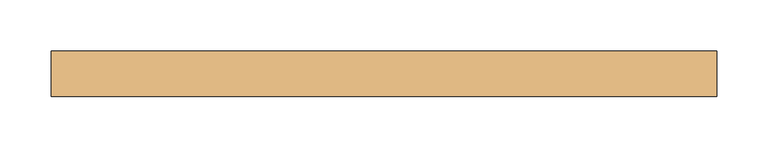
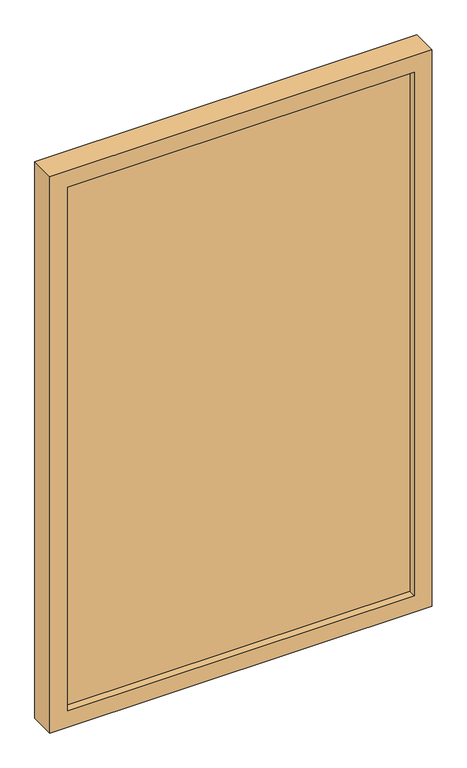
"""IFC4 building model written with IfcOpenShell, lengths in millimetres: door geometry, PUERTA_REJA_BAJA : PUERTA_REJA_BAJA."""

from ifc_helpers import new_model, si_unit, frame, origin, place, context, project, spatial, polyline, outline, extrude, source, transform, mapped, element, save


def door_52eb93c6(model_context):
    return source(origin(), model_context, "Body", "SweptSolid", [
        extrude(outline(polyline([(294.9511413, 28.3), (-294.9511413, 28.3), (-294.9511413, 47.3), (294.9511413, 47.3), (294.9511413, 28.3)])), frame((0.0, 0.0, 30.0), z_axis=(0.0, 0.0, 1.0), x_axis=(1.0, 0.0, 0.0)), (0.0, 0.0, 1.0), 940.0),
        extrude(outline(polyline([(1000.0, -324.9511413), (0.0, -324.9511413), (0.0, 324.9511413), (1000.0, 324.9511413), (1000.0, -324.9511413)]), holes=[polyline([(970.0, -294.9511413), (970.0, 294.9511413), (30.0, 294.9511413), (30.0, -294.9511413), (970.0, -294.9511413)])]), frame((0.0, 15.6, 0.0), z_axis=(0.0, 1.0, 0.0), x_axis=(0.0, 0.0, 1.0)), (0.0, 0.0, 1.0), 44.4),
    ])


if __name__ == "__main__":
    model = new_model("IFC4")
    model_context = context("Model", 3, world=origin())
    ifc_project = project(units=[si_unit("LENGTHUNIT", "METRE", prefix="MILLI")], contexts=[model_context])
    site = spatial("IfcSite", under=ifc_project)
    building = spatial("IfcBuilding", under=site)
    placement = place(None, origin())
    door_shape = door_52eb93c6(model_context)
    element("IfcDoor", 1, ObjectType="PUERTA_REJA_BAJA : PUERTA_REJA_BAJA", at=placement, inside=building, context=model_context, shape_type="MappedRepresentation", body=[
        mapped(door_shape, transform((0.0, 0.0, 0.0), x_axis=(1.0, 0.0, 0.0), y_axis=(0.0, 1.0, 0.0), z_axis=(0.0, 0.0, 1.0))),
    ])
    save(model, "model.ifc")
